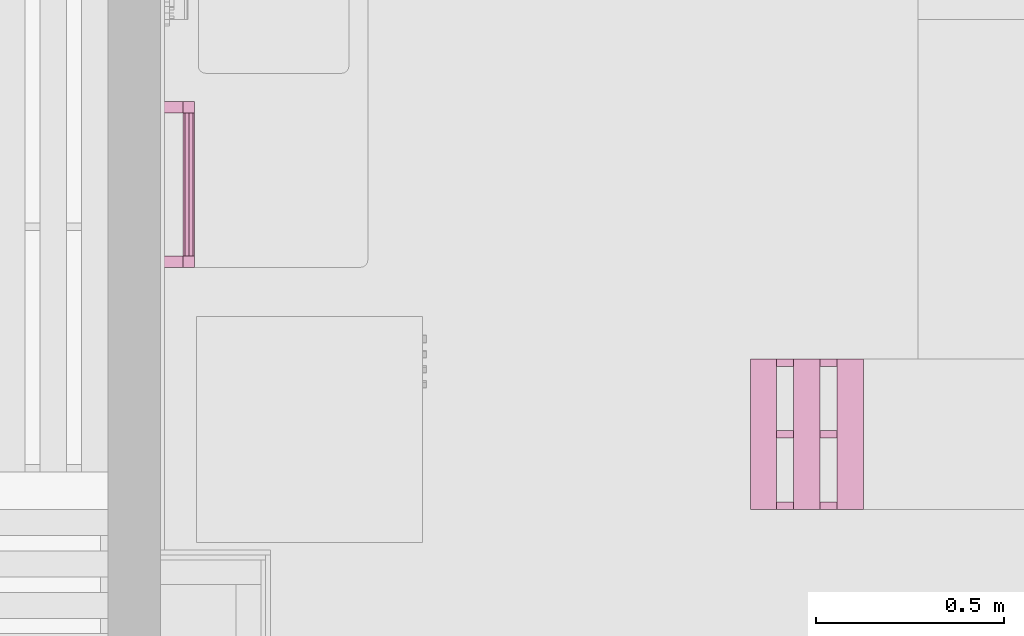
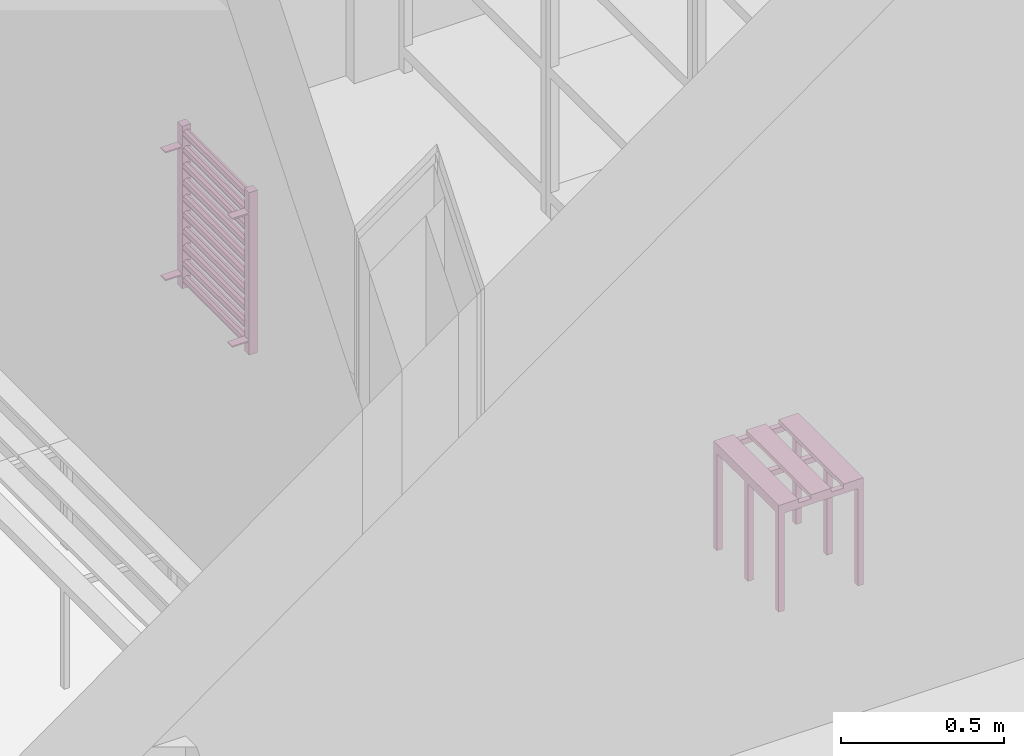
# One storey, part 286 of 301: 2 furnishings.
"""IFC2X3 building model written with IfcOpenShell, lengths in millimetres."""

from ifc_helpers import new_model, entity, si_unit, converted_unit, derived_unit, money_unit, direction, frame, origin_with_axes, place, context, subcontext, project, spatial, faceted_brep, type_object, element, save


model = new_model("IFC2X3")

# Units and contexts
model_context = context("Model", 3, precision=0.01, world=origin_with_axes(), true_north=direction((0.0, 1.0)))
body_context = subcontext(model_context, "Body", "Model", "MODEL_VIEW")
ifc_project = project(units=[si_unit("LENGTHUNIT", "METRE", prefix="MILLI"), si_unit("AREAUNIT", "SQUARE_METRE"), si_unit("VOLUMEUNIT", "CUBIC_METRE"), converted_unit("PLANEANGLEUNIT", "DEGREE", entity("IfcPlaneAngleMeasure", 0.0174532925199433), si_unit("PLANEANGLEUNIT", "RADIAN"), dimensions=[0, 0, 0, 0, 0, 0, 0]), money_unit("EUR"), converted_unit("TIMEUNIT", "Year", entity("IfcTimeMeasure", 31557600.0), si_unit("TIMEUNIT", "SECOND"), dimensions=[0, 0, 1, 0, 0, 0, 0]), si_unit("MASSUNIT", "GRAM", prefix="KILO"), si_unit("THERMODYNAMICTEMPERATUREUNIT", "DEGREE_CELSIUS"), si_unit("LUMINOUSINTENSITYUNIT", "LUMEN"), si_unit("ENERGYUNIT", "JOULE", prefix="MEGA"), derived_unit("THERMALCONDUCTANCEUNIT", [(si_unit("POWERUNIT", "WATT"), 1), (si_unit("LENGTHUNIT", "METRE"), -1), (si_unit("THERMODYNAMICTEMPERATUREUNIT", "KELVIN"), -1)]), derived_unit("SPECIFICHEATCAPACITYUNIT", [(si_unit("ENERGYUNIT", "JOULE"), 1), (si_unit("MASSUNIT", "GRAM", prefix="KILO"), -1), (si_unit("THERMODYNAMICTEMPERATUREUNIT", "KELVIN"), -1)]), derived_unit("MASSDENSITYUNIT", [(si_unit("MASSUNIT", "GRAM", prefix="KILO"), 1), (si_unit("VOLUMEUNIT", "CUBIC_METRE"), -1)])], contexts=[model_context])

# Site, building, storey
site_placement = place(None, frame((0.0, 0.0, 8650.0), z_axis=(0.0, 0.0, 1.0), x_axis=(1.0, 0.0, 0.0)))
site = spatial("IfcSite", under=ifc_project, at=site_placement, Name="43301:001:0844", CompositionType="ELEMENT")
building_placement = place(site_placement, origin_with_axes())
building = spatial("IfcBuilding", under=site, at=building_placement, Name="Kuressaare Ametikooli tuulikute mehaanikute õppekorpus", CompositionType="ELEMENT")
storey_placement = place(building_placement, origin_with_axes())
storey = spatial("IfcBuildingStorey", under=building, at=storey_placement, Name="1.korrus", CompositionType="ELEMENT", Elevation=0.0)

# Furnishings
furniture_type_1 = type_object("IfcFurnitureType", Name="Radiator Horizontal Bars 27", AssemblyPlace="NOTDEFINED")
furnishing_1_placement = place(storey_placement, frame((130704.9464826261, 21556.46984143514, 1100.0), z_axis=(0.0, 0.0, 1.0), x_axis=(0.0, 1.0, 0.0)))
element("IfcFurnishingElement", 1, at=furnishing_1_placement, inside=storey, type_object=furniture_type_1, Name="EKK", context=body_context, shape_type="Brep", body=[
    faceted_brep([(-30.0, 30.0, 50.0), (-30.0, 90.0, 50.0), (0.0, 90.0, 50.0), (0.0, 30.0, 50.0), (-30.0, 30.0, 55.0), (-30.0, 90.0, 55.0), (0.0, 90.0, 55.0), (0.0, 30.0, 55.0)], [[[0, 1, 2, 3]], [[0, 4, 5, 1]], [[1, 5, 6, 2]], [[2, 6, 7, 3]], [[3, 7, 4, 0]], [[7, 6, 5, 4]]]),
    faceted_brep([(-30.0, 30.0, 529.0), (-30.0, 90.0, 529.0), (0.0, 90.0, 529.0), (0.0, 30.0, 529.0), (-30.0, 30.0, 534.0), (-30.0, 90.0, 534.0), (0.0, 90.0, 534.0), (0.0, 30.0, 534.0)], [[[0, 1, 2, 3]], [[0, 4, 5, 1]], [[1, 5, 6, 2]], [[2, 6, 7, 3]], [[3, 7, 4, 0]], [[7, 6, 5, 4]]]),
    faceted_brep([(-440.0000000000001, 30.0, 50.0), (-440.0000000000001, 90.0, 50.0), (-410.0000000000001, 90.0, 50.0), (-410.0000000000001, 30.0, 50.0), (-440.0000000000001, 30.0, 55.0), (-440.0000000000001, 90.0, 55.0), (-410.0000000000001, 90.0, 55.0), (-410.0000000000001, 30.0, 55.0)], [[[0, 1, 2, 3]], [[0, 4, 5, 1]], [[1, 5, 6, 2]], [[2, 6, 7, 3]], [[3, 7, 4, 0]], [[7, 6, 5, 4]]]),
    faceted_brep([(-440.0000000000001, 30.0, 529.0), (-440.0000000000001, 90.0, 529.0), (-410.0000000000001, 90.0, 529.0), (-410.0000000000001, 30.0, 529.0), (-440.0000000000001, 30.0, 534.0), (-440.0000000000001, 90.0, 534.0), (-410.0000000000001, 90.0, 534.0), (-410.0000000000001, 30.0, 534.0)], [[[0, 1, 2, 3]], [[0, 4, 5, 1]], [[1, 5, 6, 2]], [[2, 6, 7, 3]], [[3, 7, 4, 0]], [[7, 6, 5, 4]]]),
    faceted_brep([(-30.0, 0.0, 0.0), (-30.0, 30.0, 0.0), (0.0, 30.0, 0.0), (0.0, 0.0, 0.0), (-30.0, 0.0, 609.0), (-30.0, 30.0, 609.0), (0.0, 30.0, 609.0), (0.0, 0.0, 609.0)], [[[0, 1, 2, 3]], [[0, 4, 5, 1]], [[1, 5, 6, 2]], [[2, 6, 7, 3]], [[3, 7, 4, 0]], [[7, 6, 5, 4]]]),
    faceted_brep([(-440.0000000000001, 0.0, 0.0), (-440.0000000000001, 30.0, 0.0), (-410.0000000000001, 30.0, 0.0), (-410.0000000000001, 0.0, 0.0), (-440.0000000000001, 0.0, 609.0), (-440.0000000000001, 30.0, 609.0), (-410.0000000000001, 30.0, 609.0), (-410.0000000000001, 0.0, 609.0)], [[[0, 1, 2, 3]], [[0, 4, 5, 1]], [[1, 5, 6, 2]], [[2, 6, 7, 3]], [[3, 7, 4, 0]], [[7, 6, 5, 4]]]),
    faceted_brep([(-30.0, 4.393398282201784, 19.84339828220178), (-30.0, 15.0, 15.45), (-30.0, 25.60660171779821, 19.84339828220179), (-30.0, 30.0, 30.45), (-30.0, 25.60660171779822, 41.05660171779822), (-30.0, 15.0, 45.45), (-30.0, 4.393398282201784, 41.05660171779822), (-30.0, 0.0, 30.45), (-410.0, 4.393398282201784, 19.8433982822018), (-410.0, 15.0, 15.45000000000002), (-410.0, 25.60660171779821, 19.84339828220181), (-410.0, 30.0, 30.45000000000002), (-410.0, 25.60660171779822, 41.05660171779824), (-410.0, 15.0, 45.45000000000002), (-410.0, 4.393398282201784, 41.05660171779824), (-410.0, 0.0, 30.45000000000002)], [[[0, 1, 2, 3, 4, 5, 6, 7]], [[0, 8, 9, 1]], [[1, 9, 10, 2]], [[2, 10, 11, 3]], [[3, 11, 12, 4]], [[4, 12, 13, 5]], [[5, 13, 14, 6]], [[6, 14, 15, 7]], [[7, 15, 8, 0]], [[8, 15, 14, 13, 12, 11, 10, 9]]]),
    faceted_brep([(-29.99999999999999, 4.393398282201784, 80.74339828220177), (-29.99999999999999, 15.0, 76.35), (-29.99999999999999, 25.60660171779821, 80.74339828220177), (-29.99999999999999, 30.0, 91.34999999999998), (-29.99999999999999, 25.60660171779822, 101.9566017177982), (-29.99999999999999, 15.0, 106.35), (-29.99999999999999, 4.393398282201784, 101.9566017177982), (-29.99999999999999, 0.0, 91.34999999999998), (-410.0, 4.393398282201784, 80.7433982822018), (-410.0, 15.0, 76.35000000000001), (-410.0, 25.60660171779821, 80.7433982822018), (-410.0, 30.0, 91.35000000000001), (-410.0, 25.60660171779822, 101.9566017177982), (-410.0, 15.0, 106.35), (-410.0, 4.393398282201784, 101.9566017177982), (-410.0, 0.0, 91.35000000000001)], [[[0, 1, 2, 3, 4, 5, 6, 7]], [[0, 8, 9, 1]], [[1, 9, 10, 2]], [[2, 10, 11, 3]], [[3, 11, 12, 4]], [[4, 12, 13, 5]], [[5, 13, 14, 6]], [[6, 14, 15, 7]], [[7, 15, 8, 0]], [[8, 15, 14, 13, 12, 11, 10, 9]]]),
    faceted_brep([(-29.99999999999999, 4.393398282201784, 141.6433982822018), (-29.99999999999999, 15.0, 137.25), (-29.99999999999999, 25.60660171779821, 141.6433982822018), (-29.99999999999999, 30.0, 152.25), (-29.99999999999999, 25.60660171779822, 162.8566017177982), (-29.99999999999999, 15.0, 167.25), (-29.99999999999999, 4.393398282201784, 162.8566017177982), (-29.99999999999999, 0.0, 152.25), (-410.0, 4.393398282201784, 141.6433982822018), (-410.0, 15.0, 137.25), (-410.0, 25.60660171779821, 141.6433982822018), (-410.0, 30.0, 152.25), (-410.0, 25.60660171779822, 162.8566017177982), (-410.0, 15.0, 167.25), (-410.0, 4.393398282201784, 162.8566017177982), (-410.0, 0.0, 152.25)], [[[0, 1, 2, 3, 4, 5, 6, 7]], [[0, 8, 9, 1]], [[1, 9, 10, 2]], [[2, 10, 11, 3]], [[3, 11, 12, 4]], [[4, 12, 13, 5]], [[5, 13, 14, 6]], [[6, 14, 15, 7]], [[7, 15, 8, 0]], [[8, 15, 14, 13, 12, 11, 10, 9]]]),
    faceted_brep([(-29.99999999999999, 4.393398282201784, 202.5433982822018), (-29.99999999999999, 15.0, 198.15), (-29.99999999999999, 25.60660171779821, 202.5433982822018), (-29.99999999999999, 30.0, 213.15), (-29.99999999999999, 25.60660171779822, 223.7566017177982), (-29.99999999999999, 15.0, 228.15), (-29.99999999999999, 4.393398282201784, 223.7566017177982), (-29.99999999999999, 0.0, 213.15), (-410.0, 4.393398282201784, 202.5433982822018), (-410.0, 15.0, 198.15), (-410.0, 25.60660171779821, 202.5433982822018), (-410.0, 30.0, 213.15), (-410.0, 25.60660171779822, 223.7566017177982), (-410.0, 15.0, 228.15), (-410.0, 4.393398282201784, 223.7566017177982), (-410.0, 0.0, 213.15)], [[[0, 1, 2, 3, 4, 5, 6, 7]], [[0, 8, 9, 1]], [[1, 9, 10, 2]], [[2, 10, 11, 3]], [[3, 11, 12, 4]], [[4, 12, 13, 5]], [[5, 13, 14, 6]], [[6, 14, 15, 7]], [[7, 15, 8, 0]], [[8, 15, 14, 13, 12, 11, 10, 9]]]),
    faceted_brep([(-29.99999999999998, 4.393398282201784, 263.4433982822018), (-29.99999999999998, 15.0, 259.05), (-29.99999999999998, 25.60660171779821, 263.4433982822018), (-29.99999999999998, 30.0, 274.05), (-29.99999999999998, 25.60660171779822, 284.6566017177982), (-29.99999999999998, 15.0, 289.05), (-29.99999999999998, 4.393398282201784, 284.6566017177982), (-29.99999999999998, 0.0, 274.05), (-410.0, 4.393398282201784, 263.4433982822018), (-410.0, 15.0, 259.0500000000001), (-410.0, 25.60660171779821, 263.4433982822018), (-410.0, 30.0, 274.05), (-410.0, 25.60660171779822, 284.6566017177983), (-410.0, 15.0, 289.05), (-410.0, 4.393398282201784, 284.6566017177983), (-410.0, 0.0, 274.05)], [[[0, 1, 2, 3, 4, 5, 6, 7]], [[0, 8, 9, 1]], [[1, 9, 10, 2]], [[2, 10, 11, 3]], [[3, 11, 12, 4]], [[4, 12, 13, 5]], [[5, 13, 14, 6]], [[6, 14, 15, 7]], [[7, 15, 8, 0]], [[8, 15, 14, 13, 12, 11, 10, 9]]]),
    faceted_brep([(-29.99999999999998, 4.393398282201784, 324.3433982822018), (-29.99999999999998, 15.0, 319.95), (-29.99999999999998, 25.60660171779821, 324.3433982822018), (-29.99999999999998, 30.0, 334.95), (-29.99999999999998, 25.60660171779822, 345.5566017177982), (-29.99999999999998, 15.0, 349.95), (-29.99999999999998, 4.393398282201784, 345.5566017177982), (-29.99999999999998, 0.0, 334.95), (-410.0, 4.393398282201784, 324.3433982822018), (-410.0, 15.0, 319.95), (-410.0, 25.60660171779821, 324.3433982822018), (-410.0, 30.0, 334.95), (-410.0, 25.60660171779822, 345.5566017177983), (-410.0, 15.0, 349.95), (-410.0, 4.393398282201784, 345.5566017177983), (-410.0, 0.0, 334.95)], [[[0, 1, 2, 3, 4, 5, 6, 7]], [[0, 8, 9, 1]], [[1, 9, 10, 2]], [[2, 10, 11, 3]], [[3, 11, 12, 4]], [[4, 12, 13, 5]], [[5, 13, 14, 6]], [[6, 14, 15, 7]], [[7, 15, 8, 0]], [[8, 15, 14, 13, 12, 11, 10, 9]]]),
    faceted_brep([(-29.99999999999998, 4.393398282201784, 385.2433982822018), (-29.99999999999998, 15.0, 380.85), (-29.99999999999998, 25.60660171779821, 385.2433982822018), (-29.99999999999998, 30.0, 395.85), (-29.99999999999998, 25.60660171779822, 406.4566017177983), (-29.99999999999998, 15.0, 410.85), (-29.99999999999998, 4.393398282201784, 406.4566017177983), (-29.99999999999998, 0.0, 395.85), (-410.0, 4.393398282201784, 385.2433982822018), (-410.0, 15.0, 380.8500000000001), (-410.0, 25.60660171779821, 385.2433982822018), (-410.0, 30.0, 395.85), (-410.0, 25.60660171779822, 406.4566017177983), (-410.0, 15.0, 410.85), (-410.0, 4.393398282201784, 406.4566017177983), (-410.0, 0.0, 395.85)], [[[0, 1, 2, 3, 4, 5, 6, 7]], [[0, 8, 9, 1]], [[1, 9, 10, 2]], [[2, 10, 11, 3]], [[3, 11, 12, 4]], [[4, 12, 13, 5]], [[5, 13, 14, 6]], [[6, 14, 15, 7]], [[7, 15, 8, 0]], [[8, 15, 14, 13, 12, 11, 10, 9]]]),
    faceted_brep([(-29.99999999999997, 4.393398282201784, 446.1433982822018), (-29.99999999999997, 15.0, 441.7500000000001), (-29.99999999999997, 25.60660171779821, 446.1433982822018), (-29.99999999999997, 30.0, 456.7500000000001), (-29.99999999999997, 25.60660171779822, 467.3566017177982), (-29.99999999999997, 15.0, 471.7500000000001), (-29.99999999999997, 4.393398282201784, 467.3566017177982), (-29.99999999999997, 0.0, 456.7500000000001), (-410.0, 4.393398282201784, 446.1433982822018), (-410.0, 15.0, 441.7500000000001), (-410.0, 25.60660171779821, 446.1433982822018), (-410.0, 30.0, 456.7500000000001), (-410.0, 25.60660171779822, 467.3566017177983), (-410.0, 15.0, 471.7500000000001), (-410.0, 4.393398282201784, 467.3566017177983), (-410.0, 0.0, 456.7500000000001)], [[[0, 1, 2, 3, 4, 5, 6, 7]], [[0, 8, 9, 1]], [[1, 9, 10, 2]], [[2, 10, 11, 3]], [[3, 11, 12, 4]], [[4, 12, 13, 5]], [[5, 13, 14, 6]], [[6, 14, 15, 7]], [[7, 15, 8, 0]], [[8, 15, 14, 13, 12, 11, 10, 9]]]),
    faceted_brep([(-29.99999999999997, 4.393398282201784, 507.0433982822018), (-29.99999999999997, 15.0, 502.65), (-29.99999999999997, 25.60660171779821, 507.0433982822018), (-29.99999999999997, 30.0, 517.6500000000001), (-29.99999999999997, 25.60660171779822, 528.2566017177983), (-29.99999999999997, 15.0, 532.6500000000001), (-29.99999999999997, 4.393398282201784, 528.2566017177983), (-29.99999999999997, 0.0, 517.6500000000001), (-410.0, 4.393398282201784, 507.0433982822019), (-410.0, 15.0, 502.65), (-410.0, 25.60660171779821, 507.0433982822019), (-410.0, 30.0, 517.6500000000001), (-410.0, 25.60660171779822, 528.2566017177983), (-410.0, 15.0, 532.6500000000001), (-410.0, 4.393398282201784, 528.2566017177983), (-410.0, 0.0, 517.6500000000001)], [[[0, 1, 2, 3, 4, 5, 6, 7]], [[0, 8, 9, 1]], [[1, 9, 10, 2]], [[2, 10, 11, 3]], [[3, 11, 12, 4]], [[4, 12, 13, 5]], [[5, 13, 14, 6]], [[6, 14, 15, 7]], [[7, 15, 8, 0]], [[8, 15, 14, 13, 12, 11, 10, 9]]]),
    faceted_brep([(-29.99999999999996, 4.393398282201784, 567.9433982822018), (-29.99999999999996, 15.0, 563.55), (-29.99999999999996, 25.60660171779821, 567.9433982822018), (-29.99999999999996, 30.0, 578.55), (-29.99999999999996, 25.60660171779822, 589.1566017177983), (-29.99999999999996, 15.0, 593.5500000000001), (-29.99999999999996, 4.393398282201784, 589.1566017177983), (-29.99999999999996, 0.0, 578.55), (-410.0, 4.393398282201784, 567.9433982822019), (-410.0, 15.0, 563.55), (-410.0, 25.60660171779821, 567.9433982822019), (-410.0, 30.0, 578.55), (-410.0, 25.60660171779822, 589.1566017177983), (-410.0, 15.0, 593.5500000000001), (-410.0, 4.393398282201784, 589.1566017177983), (-410.0, 0.0, 578.55)], [[[0, 1, 2, 3, 4, 5, 6, 7]], [[0, 8, 9, 1]], [[1, 9, 10, 2]], [[2, 10, 11, 3]], [[3, 11, 12, 4]], [[4, 12, 13, 5]], [[5, 13, 14, 6]], [[6, 14, 15, 7]], [[7, 15, 8, 0]], [[8, 15, 14, 13, 12, 11, 10, 9]]]),
])
furniture_type_2 = type_object("IfcFurnitureType", Name="Bench 27", AssemblyPlace="NOTDEFINED")
furnishing_2_placement = place(storey_placement, frame((132479.9464416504, 20874.06892395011, 0.0), z_axis=(0.0, 0.0, 1.0), x_axis=(0.0, 1.0, 0.0)))
element("IfcFurnishingElement", 2, at=furnishing_2_placement, inside=storey, type_object=furniture_type_2, Name="GK3", context=body_context, shape_type="Brep", body=[
    faceted_brep([(-20.0, 0.0, 0.0), (-20.0, 20.0, 0.0), (0.0, 20.0, 0.0), (0.0, 0.0, 0.0), (-20.0, 0.0, 385.0), (-20.0, 20.0, 385.0), (0.0, 20.0, 385.0), (0.0, 0.0, 385.0)], [[[0, 1, 2, 3]], [[0, 4, 5, 1]], [[1, 5, 6, 2]], [[2, 6, 7, 3]], [[3, 7, 4, 0]], [[7, 6, 5, 4]]]),
    faceted_brep([(-20.0, 279.9999999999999, 0.0), (-20.0, 300.0, 0.0), (0.0, 300.0, 0.0), (0.0, 279.9999999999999, 0.0), (-20.0, 279.9999999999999, 385.0), (-20.0, 300.0, 385.0), (0.0, 300.0, 385.0), (0.0, 279.9999999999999, 385.0)], [[[0, 1, 2, 3]], [[0, 4, 5, 1]], [[1, 5, 6, 2]], [[2, 6, 7, 3]], [[3, 7, 4, 0]], [[7, 6, 5, 4]]]),
    faceted_brep([(-399.9999999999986, 0.0, 0.0), (-399.9999999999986, 20.0, 0.0), (-379.9999999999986, 20.0, 0.0), (-379.9999999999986, 0.0, 0.0), (-399.9999999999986, 0.0, 385.0), (-399.9999999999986, 20.0, 385.0), (-379.9999999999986, 20.0, 385.0), (-379.9999999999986, 0.0, 385.0)], [[[0, 1, 2, 3]], [[0, 4, 5, 1]], [[1, 5, 6, 2]], [[2, 6, 7, 3]], [[3, 7, 4, 0]], [[7, 6, 5, 4]]]),
    faceted_brep([(-399.9999999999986, 279.9999999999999, 0.0), (-399.9999999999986, 300.0, 0.0), (-379.9999999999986, 300.0, 0.0), (-379.9999999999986, 279.9999999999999, 0.0), (-399.9999999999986, 279.9999999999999, 385.0), (-399.9999999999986, 300.0, 385.0), (-379.9999999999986, 300.0, 385.0), (-379.9999999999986, 279.9999999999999, 385.0)], [[[0, 1, 2, 3]], [[0, 4, 5, 1]], [[1, 5, 6, 2]], [[2, 6, 7, 3]], [[3, 7, 4, 0]], [[7, 6, 5, 4]]]),
    faceted_brep([(-209.9999999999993, 0.0, 0.0), (-209.9999999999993, 20.0, 0.0), (-189.9999999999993, 20.0, 0.0), (-189.9999999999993, 0.0, 0.0), (-209.9999999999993, 0.0, 385.0), (-209.9999999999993, 20.0, 385.0), (-189.9999999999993, 20.0, 385.0), (-189.9999999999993, 0.0, 385.0)], [[[0, 1, 2, 3]], [[0, 4, 5, 1]], [[1, 5, 6, 2]], [[2, 6, 7, 3]], [[3, 7, 4, 0]], [[7, 6, 5, 4]]]),
    faceted_brep([(-209.9999999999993, 279.9999999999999, 0.0), (-209.9999999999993, 300.0, 0.0), (-189.9999999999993, 300.0, 0.0), (-189.9999999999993, 279.9999999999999, 0.0), (-209.9999999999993, 279.9999999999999, 385.0), (-209.9999999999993, 300.0, 385.0), (-189.9999999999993, 300.0, 385.0), (-189.9999999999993, 279.9999999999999, 385.0)], [[[0, 1, 2, 3]], [[0, 4, 5, 1]], [[1, 5, 6, 2]], [[2, 6, 7, 3]], [[3, 7, 4, 0]], [[7, 6, 5, 4]]]),
    faceted_brep([(-189.9999999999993, 0.0, 365.0000000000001), (-189.9999999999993, 20.0, 365.0000000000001), (-20.0, 20.0, 365.0000000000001), (-20.0, 0.0, 365.0000000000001), (-189.9999999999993, 0.0, 385.0000000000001), (-189.9999999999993, 20.0, 385.0000000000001), (-20.0, 20.0, 385.0000000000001), (-20.0, 0.0, 385.0000000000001)], [[[0, 1, 2, 3]], [[0, 4, 5, 1]], [[1, 5, 6, 2]], [[2, 6, 7, 3]], [[3, 7, 4, 0]], [[7, 6, 5, 4]]]),
    faceted_brep([(-379.9999999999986, 0.0, 365.0000000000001), (-379.9999999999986, 20.0, 365.0000000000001), (-209.9999999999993, 20.0, 365.0000000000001), (-209.9999999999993, 0.0, 365.0000000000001), (-379.9999999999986, 0.0, 385.0000000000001), (-379.9999999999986, 20.0, 385.0000000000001), (-209.9999999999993, 20.0, 385.0000000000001), (-209.9999999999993, 0.0, 385.0000000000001)], [[[0, 1, 2, 3]], [[0, 4, 5, 1]], [[1, 5, 6, 2]], [[2, 6, 7, 3]], [[3, 7, 4, 0]], [[7, 6, 5, 4]]]),
    faceted_brep([(-189.9999999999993, 279.9999999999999, 365.0000000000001), (-189.9999999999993, 300.0, 365.0000000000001), (-20.0, 300.0, 365.0000000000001), (-20.0, 279.9999999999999, 365.0000000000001), (-189.9999999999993, 279.9999999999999, 385.0000000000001), (-189.9999999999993, 300.0, 385.0000000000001), (-20.0, 300.0, 385.0000000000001), (-20.0, 279.9999999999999, 385.0000000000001)], [[[0, 1, 2, 3]], [[0, 4, 5, 1]], [[1, 5, 6, 2]], [[2, 6, 7, 3]], [[3, 7, 4, 0]], [[7, 6, 5, 4]]]),
    faceted_brep([(-379.9999999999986, 279.9999999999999, 365.0000000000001), (-379.9999999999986, 300.0, 365.0000000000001), (-209.9999999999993, 300.0, 365.0000000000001), (-209.9999999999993, 279.9999999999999, 365.0000000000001), (-379.9999999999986, 279.9999999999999, 385.0000000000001), (-379.9999999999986, 300.0, 385.0000000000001), (-209.9999999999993, 300.0, 385.0000000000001), (-209.9999999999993, 279.9999999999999, 385.0000000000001)], [[[0, 1, 2, 3]], [[0, 4, 5, 1]], [[1, 5, 6, 2]], [[2, 6, 7, 3]], [[3, 7, 4, 0]], [[7, 6, 5, 4]]]),
    faceted_brep([(-20.0, 20.0, 365.0000000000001), (-20.0, 280.0, 365.0000000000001), (0.0, 280.0, 365.0000000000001), (0.0, 20.0, 365.0000000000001), (-20.0, 20.0, 385.0000000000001), (-20.0, 280.0, 385.0000000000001), (0.0, 280.0, 385.0000000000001), (0.0, 20.0, 385.0000000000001)], [[[0, 1, 2, 3]], [[0, 4, 5, 1]], [[1, 5, 6, 2]], [[2, 6, 7, 3]], [[3, 7, 4, 0]], [[7, 6, 5, 4]]]),
    faceted_brep([(-209.9999999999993, 20.0, 365.0000000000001), (-209.9999999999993, 280.0, 365.0000000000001), (-189.9999999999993, 280.0, 365.0000000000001), (-189.9999999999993, 20.0, 365.0000000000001), (-209.9999999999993, 20.0, 385.0000000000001), (-209.9999999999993, 280.0, 385.0000000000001), (-189.9999999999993, 280.0, 385.0000000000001), (-189.9999999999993, 20.0, 385.0000000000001)], [[[0, 1, 2, 3]], [[0, 4, 5, 1]], [[1, 5, 6, 2]], [[2, 6, 7, 3]], [[3, 7, 4, 0]], [[7, 6, 5, 4]]]),
    faceted_brep([(-399.9999999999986, 20.0, 365.0000000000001), (-399.9999999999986, 280.0, 365.0000000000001), (-379.9999999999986, 280.0, 365.0000000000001), (-379.9999999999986, 20.0, 365.0000000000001), (-399.9999999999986, 20.0, 385.0000000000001), (-399.9999999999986, 280.0, 385.0000000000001), (-379.9999999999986, 280.0, 385.0000000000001), (-379.9999999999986, 20.0, 385.0000000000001)], [[[0, 1, 2, 3]], [[0, 4, 5, 1]], [[1, 5, 6, 2]], [[2, 6, 7, 3]], [[3, 7, 4, 0]], [[7, 6, 5, 4]]]),
    faceted_brep([(0.0, 230.0, 385.0), (0.0, 230.0, 400.0), (-399.9999999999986, 230.0, 400.0), (-399.9999999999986, 230.0, 385.0), (0.0, 300.0, 385.0), (0.0, 300.0, 400.0), (-399.9999999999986, 300.0, 400.0), (-399.9999999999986, 300.0, 385.0)], [[[0, 1, 2, 3]], [[4, 5, 1, 0]], [[1, 5, 6, 2]], [[3, 2, 6, 7]], [[0, 3, 7, 4]], [[7, 6, 5, 4]]]),
    faceted_brep([(-399.9999999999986, 0.0, 385.0), (-399.9999999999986, 70.0, 385.0), (0.0, 70.0, 385.0), (0.0, 0.0, 385.0), (-399.9999999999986, 0.0, 400.0), (-399.9999999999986, 70.0, 400.0), (0.0, 70.0, 400.0), (0.0, 0.0, 400.0)], [[[0, 1, 2, 3]], [[0, 4, 5, 1]], [[1, 5, 6, 2]], [[2, 6, 7, 3]], [[3, 7, 4, 0]], [[7, 6, 5, 4]]]),
    faceted_brep([(-399.9999999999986, 115.0, 385.0), (-399.9999999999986, 185.0, 385.0), (0.0, 185.0, 385.0), (0.0, 115.0, 385.0), (-399.9999999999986, 115.0, 400.0), (-399.9999999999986, 185.0, 400.0), (0.0, 185.0, 400.0), (0.0, 115.0, 400.0)], [[[0, 1, 2, 3]], [[0, 4, 5, 1]], [[1, 5, 6, 2]], [[2, 6, 7, 3]], [[3, 7, 4, 0]], [[7, 6, 5, 4]]]),
])

save(model, "model.ifc")
